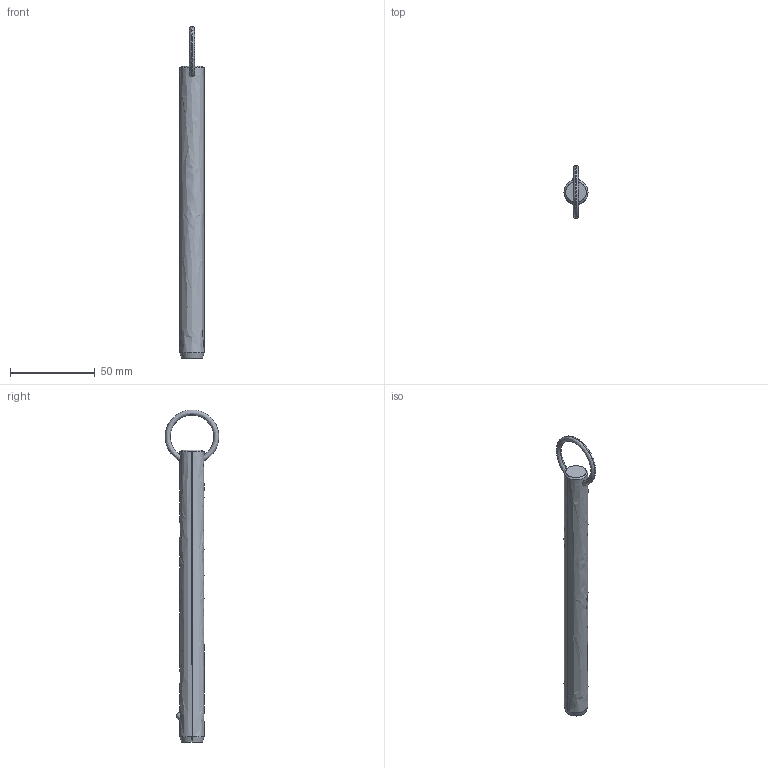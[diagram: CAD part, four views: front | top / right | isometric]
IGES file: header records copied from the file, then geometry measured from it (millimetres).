
Start section: SolidWorks IGES file using analytic representation for surfaces
Global section: file name: C:\Users\liam_\OneDrive\Documents\WORK\Work for WixRoyd\Job Files\J-00019 - Matt Davis CAD Checking\04. CAD Drawings\automotion20190605\P1250.2_v2\P1250.2_v2_20190729_IGES\P1250.056-580.igs; native system: SolidWorks 2017; preprocessor: SolidWorks 2017; author: liam_; date: 190729.232630; units: millimetre
Bounding box: 14.2 x 31.7 x 196.39 mm (x, y, z)
Surface area: 8665.7 mm2 (no closed solid volume)
Topology: 0 solids, 0 shells, 12 faces, 285 edges, 283 vertices
Faces by surface type: revolution 8, bspline 4
